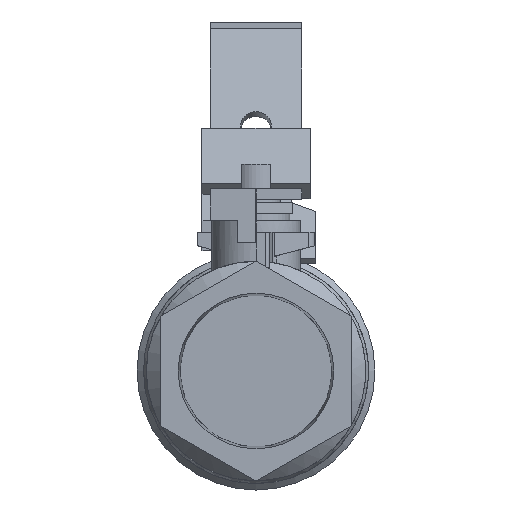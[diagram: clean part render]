
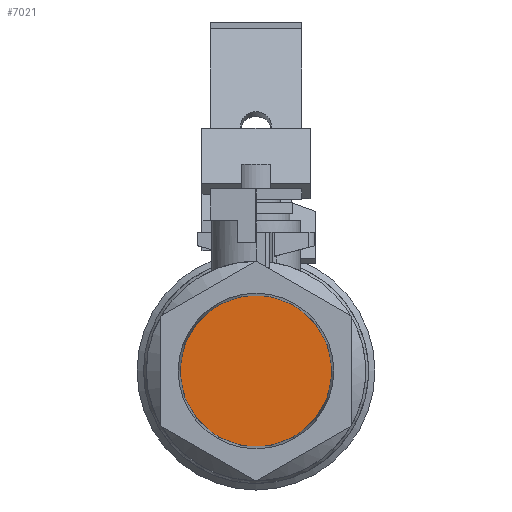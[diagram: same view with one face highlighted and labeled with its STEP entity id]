
A CAD part, left-side view. The second image highlights one B-rep face of the part: STEP entity #7021.
In plain terms, the highlighted planar face has unit normal (-1, 0, 0).
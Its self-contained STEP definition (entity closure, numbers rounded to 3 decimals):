
#7021 = ADVANCED_FACE('',(#7022),#7035,.F.);
#7022 = FACE_BOUND('',#7023,.T.);
#7023 = EDGE_LOOP('',(#7024));
#7024 = ORIENTED_EDGE('',*,*,#7025,.T.);
#7025 = EDGE_CURVE('',#7026,#7026,#7028,.T.);
#7026 = VERTEX_POINT('',#7027);
#7027 = CARTESIAN_POINT('',(0.681,-0.77,0.));
#7028 = SURFACE_CURVE('',#7029,(#7034,#7050),.PCURVE_S1.);
#7029 = CIRCLE('',#7030,0.77);
#7030 = AXIS2_PLACEMENT_3D('',#7031,#7032,#7033);
#7031 = CARTESIAN_POINT('',(0.681,0.,0.));
#7032 = DIRECTION('',(-1.,0.,0.));
#7033 = DIRECTION('',(0.,-1.,0.));
#7034 = PCURVE('',#7035,#7040);
#7035 = PLANE('',#7036);
#7036 = AXIS2_PLACEMENT_3D('',#7037,#7038,#7039);
#7037 = CARTESIAN_POINT('',(0.681,-0.385,0.));
#7038 = DIRECTION('',(1.,0.,0.));
#7039 = DIRECTION('',(0.,1.,0.));
#7040 = DEFINITIONAL_REPRESENTATION('',(#7041),#7049);
#7041 = ( BOUNDED_CURVE() B_SPLINE_CURVE(2,(#7042,#7043,#7044,#7045,
#7046,#7047,#7048),.UNSPECIFIED.,.T.,.F.) B_SPLINE_CURVE_WITH_KNOTS((1,2
    ,2,2,2,1),(-2.094,0.,2.094,4.189,
6.283,8.378),.UNSPECIFIED.) CURVE() 
GEOMETRIC_REPRESENTATION_ITEM() RATIONAL_B_SPLINE_CURVE((1.,0.5,1.,0.5,
1.,0.5,1.)) REPRESENTATION_ITEM('') );
#7042 = CARTESIAN_POINT('',(-0.385,0.));
#7043 = CARTESIAN_POINT('',(-0.385,1.334));
#7044 = CARTESIAN_POINT('',(0.77,0.667));
#7045 = CARTESIAN_POINT('',(1.926,0.));
#7046 = CARTESIAN_POINT('',(0.77,-0.667));
#7047 = CARTESIAN_POINT('',(-0.385,-1.334));
#7048 = CARTESIAN_POINT('',(-0.385,0.));
#7049 = ( GEOMETRIC_REPRESENTATION_CONTEXT(2) 
PARAMETRIC_REPRESENTATION_CONTEXT() REPRESENTATION_CONTEXT('2D SPACE',''
  ) );
#7050 = PCURVE('',#7051,#7056);
#7051 = CONICAL_SURFACE('',#7052,0.781,0.031);
#7052 = AXIS2_PLACEMENT_3D('',#7053,#7054,#7055);
#7053 = CARTESIAN_POINT('',(0.34,0.,0.));
#7054 = DIRECTION('',(-1.,0.,0.));
#7055 = DIRECTION('',(0.,-1.,0.));
#7056 = DEFINITIONAL_REPRESENTATION('',(#7057),#7061);
#7057 = LINE('',#7058,#7059);
#7058 = CARTESIAN_POINT('',(0.,-0.34));
#7059 = VECTOR('',#7060,1.);
#7060 = DIRECTION('',(1.,0.));
#7061 = ( GEOMETRIC_REPRESENTATION_CONTEXT(2) 
PARAMETRIC_REPRESENTATION_CONTEXT() REPRESENTATION_CONTEXT('2D SPACE',''
  ) );
